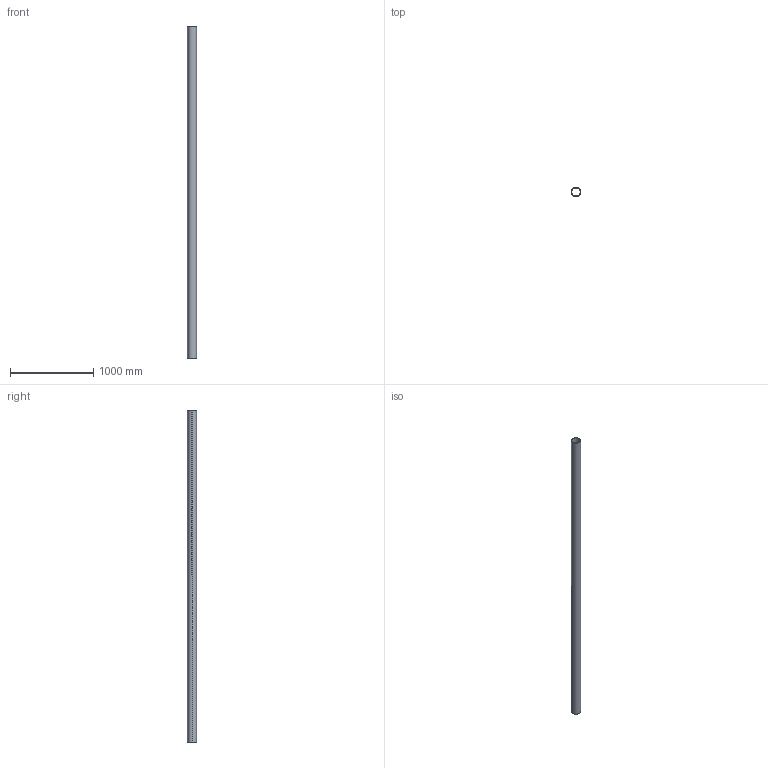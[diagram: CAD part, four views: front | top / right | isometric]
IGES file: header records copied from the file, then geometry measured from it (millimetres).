
Start section: SolidWorks IGES file using analytic representation for surfaces
Global section: file name: K:\Disegni Esecutivi\Serie 90.000\90000 TUBI\900000011HTGR.IGS; native system: SolidWorks 2009; preprocessor: SolidWorks 2009; author: cad02; date: 090901.115241; units: millimetre
Bounding box: 110 x 110 x 4000 mm (x, y, z)
Surface area: 2703458.3 mm2 (no closed solid volume)
Topology: 0 solids, 0 shells, 6 faces, 272 edges, 272 vertices
Faces by surface type: revolution 4, bspline 2
